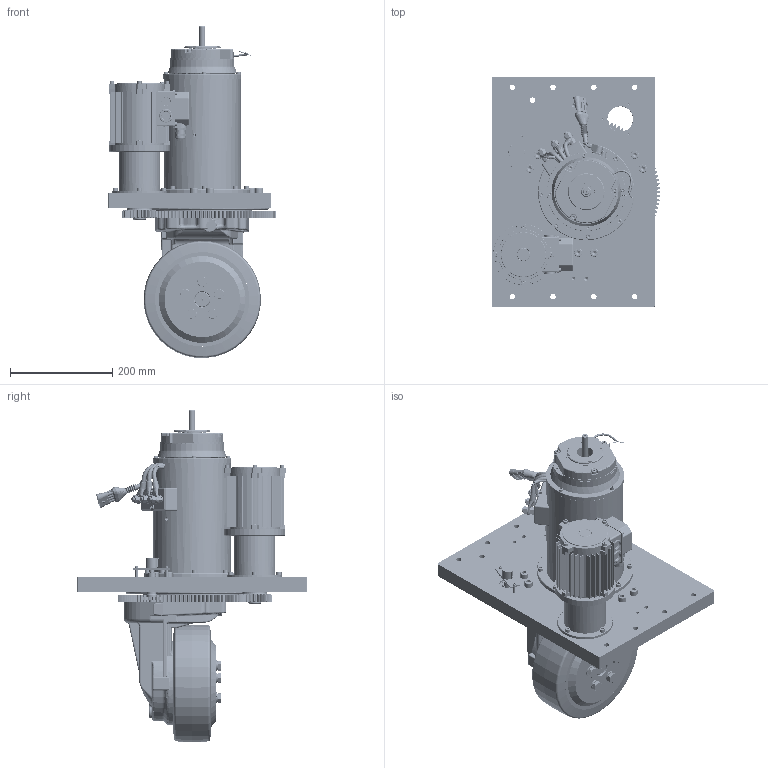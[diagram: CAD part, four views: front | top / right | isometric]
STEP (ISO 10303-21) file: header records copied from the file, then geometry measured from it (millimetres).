
FILE_DESCRIPTION(/* description */ (''),/* implementation_level */ '2;1');
FILE_NAME(/* name */ 'C:\Users\marco bosi\Desktop\WR151ECOFMS-AC.stp',/* time_stamp */ '2023-07-07T17:09:03+02:00',/* author */ ('marco bosi'),/* organization */ (''),/* preprocessor_version */ 'ST-DEVELOPER v18.1',/* originating_system */ 'Autodesk Inventor 2022',/* authorisation */ '');
FILE_SCHEMA (('AUTOMOTIVE_DESIGN { 1 0 10303 214 3 1 1 }'));
Products named in the file (1): WR151ECOFMS10_Semplifica_1
Bounding box: 330 x 450 x 650.22 mm (x, y, z)
Volume: 10863333.4 mm3; surface area: 1900227.9 mm2
Topology: 5 solids, 5 shells, 8409 faces, 21971 edges, 14179 vertices
Faces by surface type: plane 5078, cylinder 1876, cone 607, bspline 522, torus 268, sphere 58
Full cylindrical faces by diameter (mm): 1 x2, 1.5 x2, 1.7 x2, 1.914 x2, 2 x9, 2.5 x3, 2.523 x2, 3.242 x6, 3.457 x2, 4 x15, 4.134 x12, 4.48 x8, 4.5 x4, 4.917 x5, 5 x16, 5.3 x4, 5.5 x18, 6 x12, 6.35 x1, 6.5 x6, 6.647 x10, 7 x12, 7.5 x4, 8 x23, 8.2 x3, 8.3 x4, 8.376 x13, 8.5 x15, 8.75 x3, 9 x17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
Entity records: 282030 total; most frequent: CARTESIAN_POINT 67932, ORIENTED_EDGE 43618, DIRECTION 42794, EDGE_CURVE 21809, AXIS2_PLACEMENT_3D 15509, VERTEX_POINT 14179, LINE 11776, VECTOR 11776
